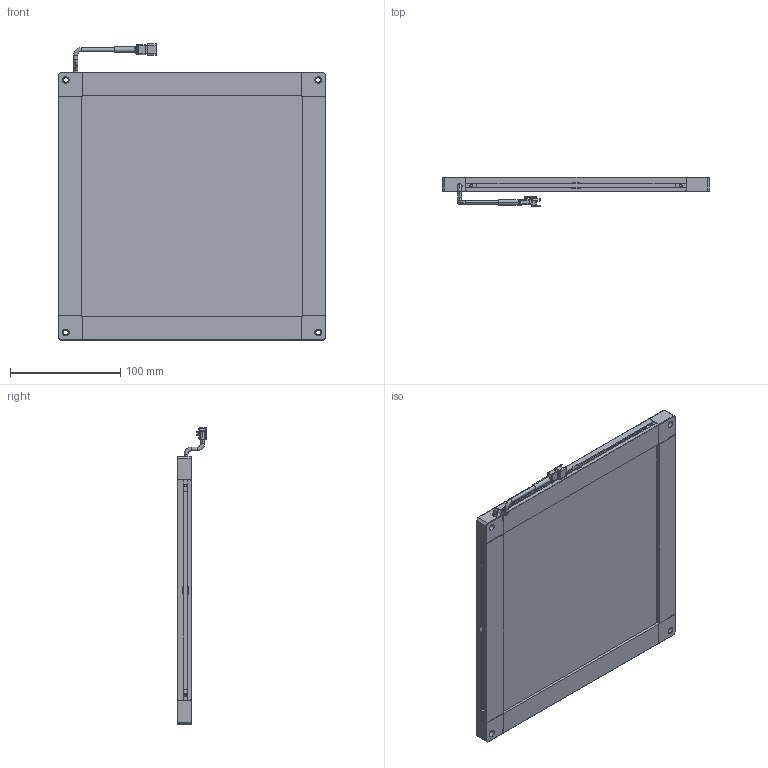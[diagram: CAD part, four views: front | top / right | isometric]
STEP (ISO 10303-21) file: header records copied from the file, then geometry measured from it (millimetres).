
FILE_DESCRIPTION (( 'STEP AP203' ), '1' );
FILE_NAME ('UA23088.STEP', '2020-11-09T04:23:02', ( 'CCS' ), ( 'シーシーエス株式会社' ), 'SwSTEP 2.0', 'SolidWorks 2017', '' );
FILE_SCHEMA (( 'CONFIG_CONTROL_DESIGN' ));
Length unit declared in the file: millimetre
Products named in the file (1): UA23088
Bounding box: 243 x 27.1 x 268.85 mm (x, y, z)
Surface area: 157581.1 mm2 (no closed solid volume)
Topology: 0 solids, 28 shells, 562 faces, 1816 edges, 1262 vertices
Faces by surface type: plane 374, cylinder 100, bspline 36, cone 30, torus 22
Entity records: 21076 total; most frequent: CARTESIAN_POINT 5496, DIRECTION 3100, ORIENTED_EDGE 2885, EDGE_CURVE 1816, VECTOR 1398, LINE 1398, VERTEX_POINT 1262, AXIS2_PLACEMENT_3D 851
